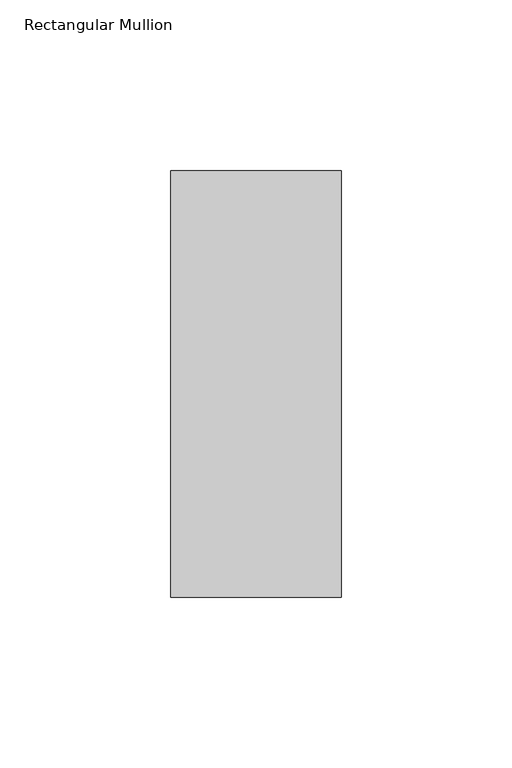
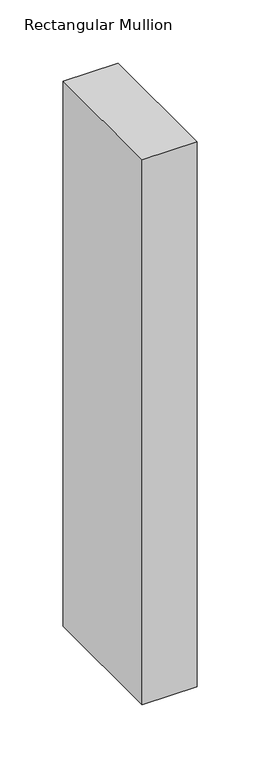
"""IFC4 building model written with IfcOpenShell, lengths in millimetres: member geometry, Rectangular Mullion : DucoSun Cubic Design profile 50x125 for louvre 600."""

from ifc_helpers import new_model, si_unit, frame, origin, place, context, project, spatial, polyline, outline, extrude, source, transform, mapped, element, save


def rectangular_mullion_16207d63(model_context):
    return source(origin(), model_context, "Body", "SweptSolid", [
        extrude(outline(polyline([(-50.0, 237.5), (-50.0, 362.5), (0.0, 362.5), (0.0, 237.5), (-50.0, 237.5)])), frame((0.0, 0.0, -525.5000002), z_axis=(0.0, 0.0, 1.0), x_axis=(1.0, 0.0, 0.0)), (0.0, 0.0, 1.0), 525.5000002),
    ])


if __name__ == "__main__":
    model = new_model("IFC4")
    model_context = context("Model", 3, world=origin())
    ifc_project = project(units=[si_unit("LENGTHUNIT", "METRE", prefix="MILLI")], contexts=[model_context])
    site = spatial("IfcSite", under=ifc_project)
    building = spatial("IfcBuilding", under=site)
    placement = place(None, origin())
    rectangular_mullion_shape = rectangular_mullion_16207d63(model_context)
    element("IfcMember", 1, ObjectType="Rectangular Mullion : DucoSun Cubic Design profile 50x125 for louvre 600", at=placement, inside=building, context=model_context, shape_type="MappedRepresentation", body=[
        mapped(rectangular_mullion_shape, transform((0.0, 0.0, 0.0), x_axis=(1.0, 0.0, 0.0), y_axis=(0.0, 1.0, 0.0), z_axis=(0.0, 0.0, 1.0))),
    ])
    save(model, "model.ifc")
